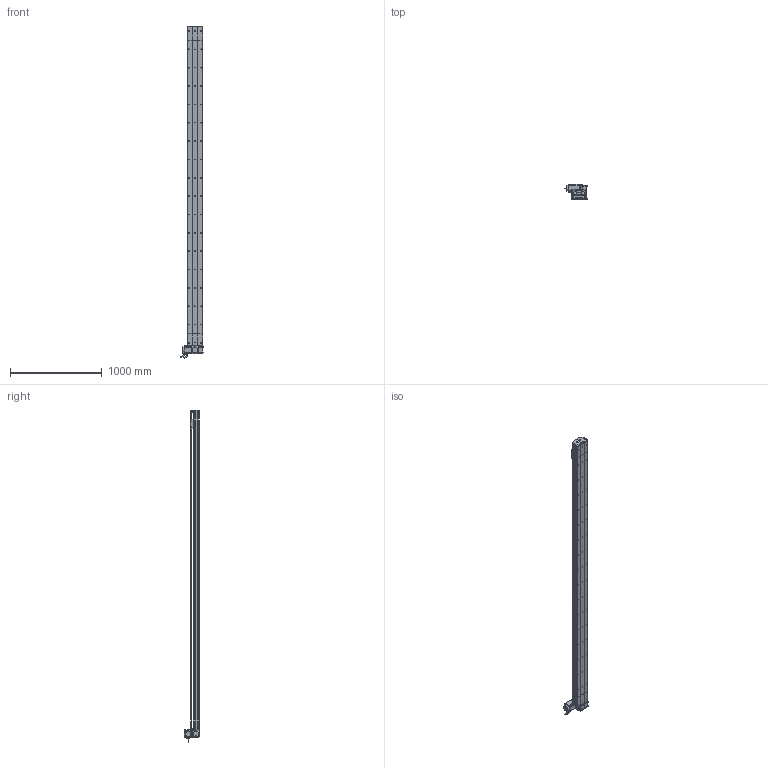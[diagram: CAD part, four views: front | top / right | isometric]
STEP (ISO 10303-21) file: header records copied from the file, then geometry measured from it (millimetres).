
FILE_DESCRIPTION (( 'STEP AP214' ), '1' );
FILE_NAME ('D17 TBN LT S3200.STEP', '2010-06-30T13:41:53', ( 'Conseil Régional Haute-Normandie' ), ( 'Conseil Régional Haute-Normandie' ), 'SwSTEP 2.0', 'SolidWorks 2010', '' );
FILE_SCHEMA (( 'AUTOMOTIVE_DESIGN' ));
Length unit declared in the file: millimetre
Products named in the file (40): course 3200 D17B_Default; Conecteur2_Default; Conecteur_Default; vis M5 L70_Default; Plaque racord D17_Default; vis M5 L16_Default; Moteur motionking 90BLDC125A-640; Vis M5 L16-2_Default; Tail D17B_Default; tete d''axe poulie D17B; corpl tail D17B_Default; Rail D17B; plaque de  bout tail D17B_Default; D17 TBN LT S3200; poulie tail_Default; Couroie tail D17B_Default; couvercle D17B_Default; poulie head_Default; cache arbre D17_Default; avant 90BLDC125A-640; couroie head D17_Default; Renvoi LT_Default; vis M5 L25_Default; vis M5 L8 90°_Default; chariot D17 TBN; guide D17; couvercle D17B course L3200_Default; Head LT D17B_Default; cache D17_Default; vis M5 L5_Default; corp D17B 3200_Default; Couroie+ rail D17 Course 3200 ; couvercle D17B head_Default; Arbre+rail head D17B; plaque de  bout head D17B LT_Default; corpl head D17 _Default; vis M5 L12_Default; Chariot D17 TBN; corps 90BLDC125A-640; codeur 90BLDC125-640
Assembly tree (66 placements, depth 4):
  D17 TBN LT S3200
    course 3200 D17B_Default
      couvercle D17B course L3200_Default
      corp D17B 3200_Default
      Couroie+ rail D17 Course 3200 
    Tail D17B_Default
      corpl tail D17B_Default
      vis M5 L12_Default  x4
      vis M5 L8 90°_Default  x2
      vis M5 L25_Default  x2
      tete d''axe poulie D17B
      Rail D17B
      plaque de  bout tail D17B_Default
      poulie tail_Default
      Couroie tail D17B_Default
      couvercle D17B_Default
    chariot D17 TBN
      Chariot D17 TBN
      guide D17  x2
    Head LT D17B_Default
      vis M5 L25_Default  x2
      vis M5 L12_Default  x8
      Renvoi LT_Default
      vis M5 L70_Default  x4
      Moteur motionking 90BLDC125A-640
        corps 90BLDC125A-640
        avant 90BLDC125A-640
        codeur 90BLDC125-640
        Conecteur_Default
        Conecteur2_Default
      plaque de  bout head D17B LT_Default
      vis M5 L5_Default  x4
      Plaque racord D17_Default
      corpl head D17 _Default
      cache D17_Default  x2
      cache arbre D17_Default
      vis M5 L16_Default  x2
      Vis M5 L16-2_Default  x4
      poulie head_Default
      couroie head D17_Default
      couvercle D17B head_Default
      Arbre+rail head D17B
Bounding box: 245.2 x 166.15 x 3617.95 mm (x, y, z)
Volume: 20353442.6 mm3; surface area: 5960495.2 mm2
Topology: 89 solids, 89 shells, 2663 faces, 6869 edges, 4426 vertices
Faces by surface type: plane 1533, cylinder 833, bspline 136, cone 80, torus 77, sphere 4
Entity records: 86915 total; most frequent: CARTESIAN_POINT 25715, ORIENTED_EDGE 10910, DIRECTION 10292, EDGE_CURVE 5455, VERTEX_POINT 3570, VECTOR 3538, LINE 3538, AXIS2_PLACEMENT_3D 3377
